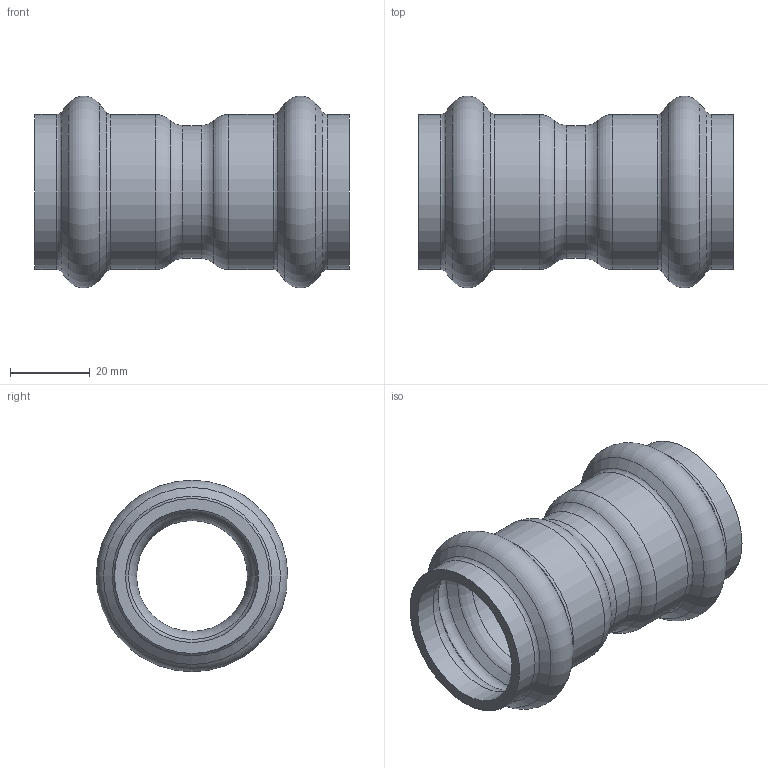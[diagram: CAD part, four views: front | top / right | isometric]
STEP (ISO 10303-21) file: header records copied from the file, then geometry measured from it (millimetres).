
FILE_DESCRIPTION(/* description */ ('VIC COUPLING STYLE P507 STD P X P','CAx-IF Rec.Pracs.---Representation and Presentation of Product Manufacturing Information (PMI)---4.0---2014-10-13'),/* implementation_level */ '2;1');
FILE_NAME(/* name */ 'C:\Users\kkamble\AppData\Roaming\Autodesk\ApplicationPlugins\Back Up\Victaulic_SS-Vic-Press-TP 316_Coupling Standard_Style P507 (VP)\Victaulic_SS-Vic-Press-TP 316_Coupling Standard_Style P507 (VP)_1 (25).stp',/* time_stamp */ '2020-08-14T11:54:47+05:00',/* author */ ('cgray'),/* organization */ ('Victaulic'),/* preprocessor_version */ 'ST-DEVELOPER v17.2',/* originating_system */ 'Autodesk Inventor 2019',/* authorisation */ '');
FILE_SCHEMA (('AP242_MANAGED_MODEL_BASED_3D_ENGINEERING_MIM_LF { 1 0 10303 442 1 1 4 }'));
Length unit declared in the file: inch
Products named in the file (1): P507-01.0
Bounding box: 78.99 x 48.13 x 48.13 mm (x, y, z)
Volume: 28354.6 mm3; surface area: 21112.2 mm2
Topology: 1 solids, 1 shells, 40 faces, 150 edges, 112 vertices
Faces by surface type: torus 20, cylinder 10, cone 8, plane 2
Full cylindrical faces by diameter (mm): 27.864 x1, 33.401 x5, 38.938 x4
Entity records: 1910 total; most frequent: DIRECTION 390, CARTESIAN_POINT 320, ORIENTED_EDGE 300, AXIS2_PLACEMENT_3D 186, EDGE_CURVE 150, CIRCLE 132, VERTEX_POINT 112, EDGE_LOOP 42
